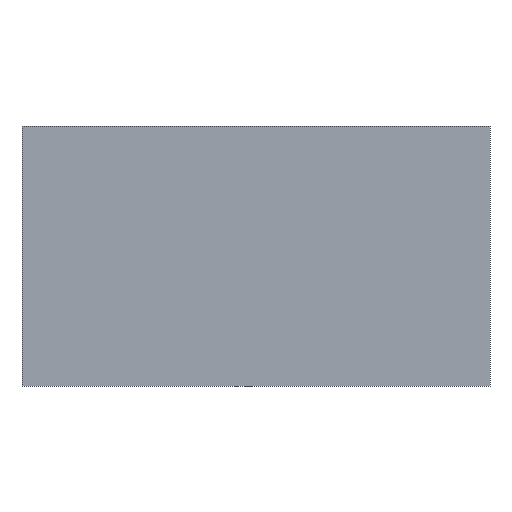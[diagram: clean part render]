
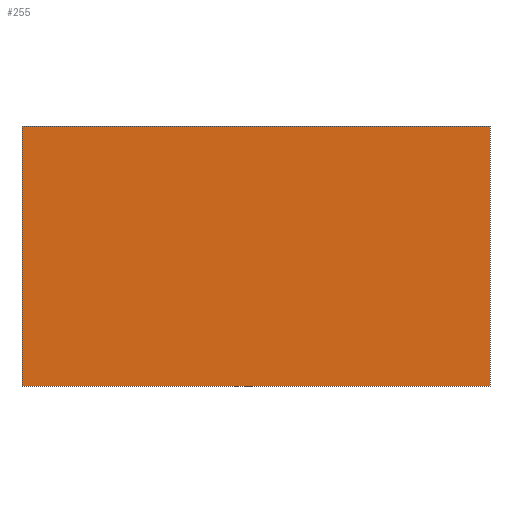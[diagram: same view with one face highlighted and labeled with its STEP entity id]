
A CAD part, front view. The second image highlights one B-rep face of the part: STEP entity #255.
In plain terms, the highlighted planar face has unit normal (0, -1, 0).
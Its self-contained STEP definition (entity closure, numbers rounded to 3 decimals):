
#39 = EDGE_CURVE('',#40,#42,#44,.T.);
#40 = VERTEX_POINT('',#41);
#41 = CARTESIAN_POINT('',(0.,0.,0.));
#42 = VERTEX_POINT('',#43);
#43 = CARTESIAN_POINT('',(0.,0.,10.));
#44 = SURFACE_CURVE('',#45,(#49,#61),.PCURVE_S1.);
#45 = LINE('',#46,#47);
#46 = CARTESIAN_POINT('',(0.,0.,0.));
#47 = VECTOR('',#48,1.);
#48 = DIRECTION('',(0.,0.,1.));
#49 = PCURVE('',#50,#55);
#50 = PLANE('',#51);
#51 = AXIS2_PLACEMENT_3D('',#52,#53,#54);
#52 = CARTESIAN_POINT('',(0.,0.,0.));
#53 = DIRECTION('',(1.,0.,-0.));
#54 = DIRECTION('',(0.,0.,1.));
#55 = DEFINITIONAL_REPRESENTATION('',(#56),#60);
#56 = LINE('',#57,#58);
#57 = CARTESIAN_POINT('',(0.,0.));
#58 = VECTOR('',#59,1.);
#59 = DIRECTION('',(1.,0.));
#60 = ( GEOMETRIC_REPRESENTATION_CONTEXT(2) 
PARAMETRIC_REPRESENTATION_CONTEXT() REPRESENTATION_CONTEXT('2D SPACE',''
  ) );
#61 = PCURVE('',#62,#67);
#62 = PLANE('',#63);
#63 = AXIS2_PLACEMENT_3D('',#64,#65,#66);
#64 = CARTESIAN_POINT('',(0.,0.,0.));
#65 = DIRECTION('',(-0.,1.,0.));
#66 = DIRECTION('',(0.,0.,1.));
#67 = DEFINITIONAL_REPRESENTATION('',(#68),#72);
#68 = LINE('',#69,#70);
#69 = CARTESIAN_POINT('',(0.,0.));
#70 = VECTOR('',#71,1.);
#71 = DIRECTION('',(1.,0.));
#72 = ( GEOMETRIC_REPRESENTATION_CONTEXT(2) 
PARAMETRIC_REPRESENTATION_CONTEXT() REPRESENTATION_CONTEXT('2D SPACE',''
  ) );
#90 = PLANE('',#91);
#91 = AXIS2_PLACEMENT_3D('',#92,#93,#94);
#92 = CARTESIAN_POINT('',(0.,0.,0.));
#93 = DIRECTION('',(0.,0.,1.));
#94 = DIRECTION('',(1.,0.,-0.));
#144 = PLANE('',#145);
#145 = AXIS2_PLACEMENT_3D('',#146,#147,#148);
#146 = CARTESIAN_POINT('',(0.,0.,10.));
#147 = DIRECTION('',(0.,0.,1.));
#148 = DIRECTION('',(1.,0.,-0.));
#159 = EDGE_CURVE('',#160,#162,#164,.T.);
#160 = VERTEX_POINT('',#161);
#161 = CARTESIAN_POINT('',(18.,0.,0.));
#162 = VERTEX_POINT('',#163);
#163 = CARTESIAN_POINT('',(18.,0.,10.));
#164 = SURFACE_CURVE('',#165,(#169,#181),.PCURVE_S1.);
#165 = LINE('',#166,#167);
#166 = CARTESIAN_POINT('',(18.,0.,0.));
#167 = VECTOR('',#168,1.);
#168 = DIRECTION('',(0.,0.,1.));
#169 = PCURVE('',#170,#175);
#170 = PLANE('',#171);
#171 = AXIS2_PLACEMENT_3D('',#172,#173,#174);
#172 = CARTESIAN_POINT('',(18.,0.,0.));
#173 = DIRECTION('',(1.,0.,-0.));
#174 = DIRECTION('',(0.,0.,1.));
#175 = DEFINITIONAL_REPRESENTATION('',(#176),#180);
#176 = LINE('',#177,#178);
#177 = CARTESIAN_POINT('',(0.,0.));
#178 = VECTOR('',#179,1.);
#179 = DIRECTION('',(1.,0.));
#180 = ( GEOMETRIC_REPRESENTATION_CONTEXT(2) 
PARAMETRIC_REPRESENTATION_CONTEXT() REPRESENTATION_CONTEXT('2D SPACE',''
  ) );
#181 = PCURVE('',#62,#182);
#182 = DEFINITIONAL_REPRESENTATION('',(#183),#187);
#183 = LINE('',#184,#185);
#184 = CARTESIAN_POINT('',(0.,18.));
#185 = VECTOR('',#186,1.);
#186 = DIRECTION('',(1.,0.));
#187 = ( GEOMETRIC_REPRESENTATION_CONTEXT(2) 
PARAMETRIC_REPRESENTATION_CONTEXT() REPRESENTATION_CONTEXT('2D SPACE',''
  ) );
#255 = ADVANCED_FACE('',(#256),#62,.F.);
#256 = FACE_BOUND('',#257,.F.);
#257 = EDGE_LOOP('',(#258,#279,#280,#301));
#258 = ORIENTED_EDGE('',*,*,#259,.F.);
#259 = EDGE_CURVE('',#40,#160,#260,.T.);
#260 = SURFACE_CURVE('',#261,(#265,#272),.PCURVE_S1.);
#261 = LINE('',#262,#263);
#262 = CARTESIAN_POINT('',(0.,0.,0.));
#263 = VECTOR('',#264,1.);
#264 = DIRECTION('',(1.,0.,-0.));
#265 = PCURVE('',#62,#266);
#266 = DEFINITIONAL_REPRESENTATION('',(#267),#271);
#267 = LINE('',#268,#269);
#268 = CARTESIAN_POINT('',(0.,0.));
#269 = VECTOR('',#270,1.);
#270 = DIRECTION('',(0.,1.));
#271 = ( GEOMETRIC_REPRESENTATION_CONTEXT(2) 
PARAMETRIC_REPRESENTATION_CONTEXT() REPRESENTATION_CONTEXT('2D SPACE',''
  ) );
#272 = PCURVE('',#90,#273);
#273 = DEFINITIONAL_REPRESENTATION('',(#274),#278);
#274 = LINE('',#275,#276);
#275 = CARTESIAN_POINT('',(0.,0.));
#276 = VECTOR('',#277,1.);
#277 = DIRECTION('',(1.,0.));
#278 = ( GEOMETRIC_REPRESENTATION_CONTEXT(2) 
PARAMETRIC_REPRESENTATION_CONTEXT() REPRESENTATION_CONTEXT('2D SPACE',''
  ) );
#279 = ORIENTED_EDGE('',*,*,#39,.T.);
#280 = ORIENTED_EDGE('',*,*,#281,.T.);
#281 = EDGE_CURVE('',#42,#162,#282,.T.);
#282 = SURFACE_CURVE('',#283,(#287,#294),.PCURVE_S1.);
#283 = LINE('',#284,#285);
#284 = CARTESIAN_POINT('',(0.,0.,10.));
#285 = VECTOR('',#286,1.);
#286 = DIRECTION('',(1.,0.,-0.));
#287 = PCURVE('',#62,#288);
#288 = DEFINITIONAL_REPRESENTATION('',(#289),#293);
#289 = LINE('',#290,#291);
#290 = CARTESIAN_POINT('',(10.,0.));
#291 = VECTOR('',#292,1.);
#292 = DIRECTION('',(0.,1.));
#293 = ( GEOMETRIC_REPRESENTATION_CONTEXT(2) 
PARAMETRIC_REPRESENTATION_CONTEXT() REPRESENTATION_CONTEXT('2D SPACE',''
  ) );
#294 = PCURVE('',#144,#295);
#295 = DEFINITIONAL_REPRESENTATION('',(#296),#300);
#296 = LINE('',#297,#298);
#297 = CARTESIAN_POINT('',(0.,0.));
#298 = VECTOR('',#299,1.);
#299 = DIRECTION('',(1.,0.));
#300 = ( GEOMETRIC_REPRESENTATION_CONTEXT(2) 
PARAMETRIC_REPRESENTATION_CONTEXT() REPRESENTATION_CONTEXT('2D SPACE',''
  ) );
#301 = ORIENTED_EDGE('',*,*,#159,.F.);
